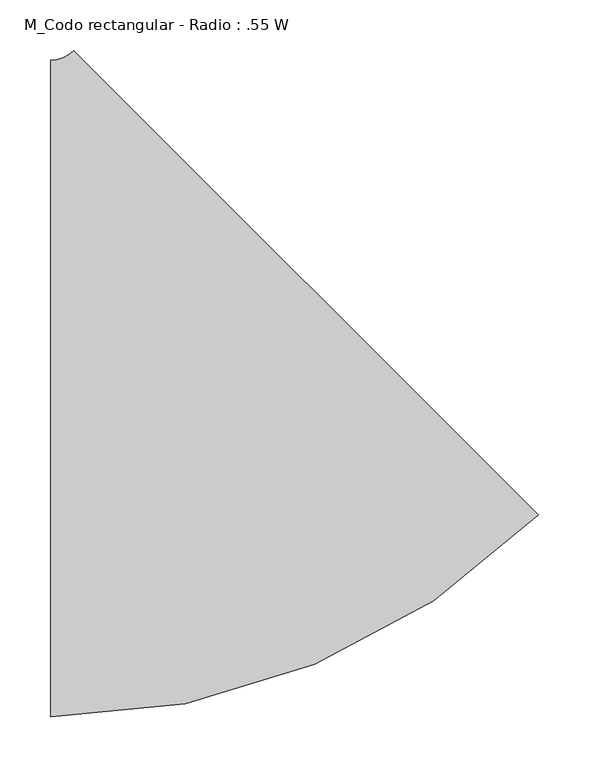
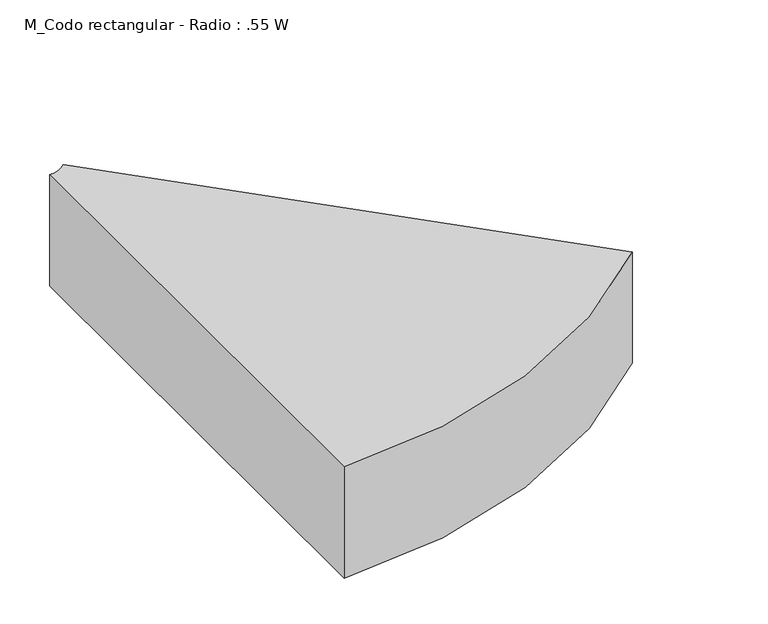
"""IFC4 building model written with IfcOpenShell, lengths in millimetres: duct fitting geometry, M_Codo rectangular - Radio : .55 W."""

from ifc_helpers import new_model, si_unit, point, frame, frame_2d, origin, place, context, project, spatial, polyline, circle_curve, trimmed, segment, composite_curve, outline, extrude, source, transform, mapped, element, save


def m_codo_rectangular_radio_55_w_1070adcc(model_context):
    return source(origin(), model_context, "Body", "SweptSolid", [
        extrude(outline(composite_curve([segment(trimmed(circle_curve(frame_2d((-148.0813485, 357.5)), 682.5), [point((334.5190296, -125.1003782))], [point((-148.0813485, -325.0))], False, "CARTESIAN"), True, "CONTINUOUS"), segment(polyline([(-148.0813485, -325.0), (-148.0813485, 325.0)]), True, "CONTINUOUS"), segment(trimmed(circle_curve(frame_2d((-148.0813485, 357.5)), 32.5), [point((-148.0813485, 325.0))], [point((-125.1003782, 334.5190296))], True, "CARTESIAN"), True, "CONTINUOUS"), segment(polyline([(-125.1003782, 334.5190296), (334.5190296, -125.1003782)]), True, "CONTINUOUS")], self_intersect=False)), frame((0.0, 0.0, -75.0), z_axis=(0.0, 0.0, 1.0), x_axis=(1.0, 0.0, 0.0)), (0.0, 0.0, 1.0), 150.0),
    ])


if __name__ == "__main__":
    model = new_model("IFC4")
    model_context = context("Model", 3, world=origin())
    ifc_project = project(units=[si_unit("LENGTHUNIT", "METRE", prefix="MILLI")], contexts=[model_context])
    site = spatial("IfcSite", under=ifc_project)
    building = spatial("IfcBuilding", under=site)
    placement = place(None, origin())
    m_codo_rectangular_radio_55_w_shape = m_codo_rectangular_radio_55_w_1070adcc(model_context)
    element("IfcDuctFitting", 1, ObjectType="M_Codo rectangular - Radio : .55 W", at=placement, inside=building, context=model_context, shape_type="MappedRepresentation", body=[
        mapped(m_codo_rectangular_radio_55_w_shape, transform((0.0, 0.0, 0.0), x_axis=(1.0, 0.0, 0.0), y_axis=(0.0, 1.0, 0.0), z_axis=(0.0, 0.0, 1.0))),
    ])
    save(model, "model.ifc")
